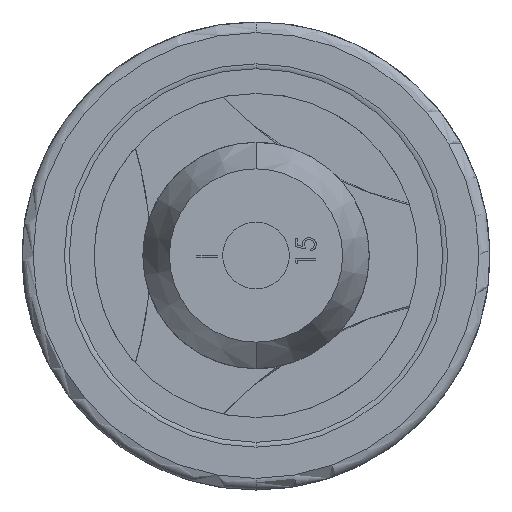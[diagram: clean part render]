
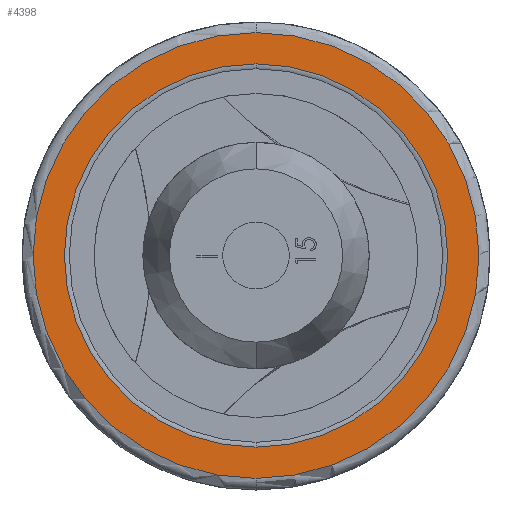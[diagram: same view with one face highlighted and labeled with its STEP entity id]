
A CAD part, left-side view. The second image highlights one B-rep face of the part: STEP entity #4398.
In plain terms, the highlighted planar face has unit normal (-1, 0, 0).
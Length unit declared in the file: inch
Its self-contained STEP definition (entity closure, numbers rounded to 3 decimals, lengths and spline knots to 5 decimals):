
#89 = AXIS2_PLACEMENT_3D ( 'NONE', #3285, #295, #6924 ) ;
#257 = DIRECTION ( 'NONE',  ( 0., 0., -1. ) ) ;
#295 = DIRECTION ( 'NONE',  ( 1., 0., 0. ) ) ;
#741 = CARTESIAN_POINT ( 'NONE',  ( -0.25687, 0.07672, -0.15806 ) ) ;
#858 = CARTESIAN_POINT ( 'NONE',  ( -0.25687, 0.07672, -0.15806 ) ) ;
#976 = CARTESIAN_POINT ( 'NONE',  ( -0.25687, 0.07672, -0.72914 ) ) ;
#1069 = EDGE_LOOP ( 'NONE', ( #7727, #2149 ) ) ;
#1245 = VERTEX_POINT ( 'NONE', #2766 ) ;
#1538 = CARTESIAN_POINT ( 'NONE',  ( -0.25687, 0.07672, -0.15806 ) ) ;
#1739 = AXIS2_PLACEMENT_3D ( 'NONE', #741, #2576, #6174 ) ;
#1782 = VERTEX_POINT ( 'NONE', #976 ) ;
#1892 = CARTESIAN_POINT ( 'NONE',  ( -0.25687, 0.07672, 0.33296 ) ) ;
#2149 = ORIENTED_EDGE ( 'NONE', *, *, #3027, .T. ) ;
#2576 = DIRECTION ( 'NONE',  ( 1., 0., 0. ) ) ;
#2654 = DIRECTION ( 'NONE',  ( -1., 0., 0. ) ) ;
#2732 = CARTESIAN_POINT ( 'NONE',  ( -0.25687, 0.07672, -0.15806 ) ) ;
#2766 = CARTESIAN_POINT ( 'NONE',  ( -0.25687, 0.07672, -0.64908 ) ) ;
#2989 = CIRCLE ( 'NONE', #3366, 0.57108 ) ;
#3021 = EDGE_CURVE ( 'NONE', #4827, #1245, #3491, .T. ) ;
#3027 = EDGE_CURVE ( 'NONE', #4466, #1782, #2989, .T. ) ;
#3243 = CARTESIAN_POINT ( 'NONE',  ( -0.25687, 0.07672, 0.41302 ) ) ;
#3285 = CARTESIAN_POINT ( 'NONE',  ( -0.25687, 0.07672, -0.15806 ) ) ;
#3366 = AXIS2_PLACEMENT_3D ( 'NONE', #1538, #5817, #257 ) ;
#3413 = FACE_OUTER_BOUND ( 'NONE', #1069, .T. ) ;
#3491 = CIRCLE ( 'NONE', #6812, 0.49102 ) ;
#3529 = CIRCLE ( 'NONE', #7237, 0.57108 ) ;
#3905 = CIRCLE ( 'NONE', #1739, 0.49102 ) ;
#4056 = DIRECTION ( 'NONE',  ( 1., 0., 0. ) ) ;
#4337 = EDGE_CURVE ( 'NONE', #1245, #4827, #3905, .T. ) ;
#4398 = ADVANCED_FACE ( 'NONE', ( #6967, #3413 ), #5770, .F. ) ;
#4466 = VERTEX_POINT ( 'NONE', #3243 ) ;
#4487 = EDGE_CURVE ( 'NONE', #1782, #4466, #3529, .T. ) ;
#4827 = VERTEX_POINT ( 'NONE', #1892 ) ;
#4997 = ORIENTED_EDGE ( 'NONE', *, *, #4337, .T. ) ;
#5175 = DIRECTION ( 'NONE',  ( 0., 0., -1. ) ) ;
#5363 = EDGE_LOOP ( 'NONE', ( #4997, #6454 ) ) ;
#5770 = PLANE ( 'NONE',  #89 ) ;
#5817 = DIRECTION ( 'NONE',  ( -1., 0., 0. ) ) ;
#6174 = DIRECTION ( 'NONE',  ( 0., 0., -1. ) ) ;
#6454 = ORIENTED_EDGE ( 'NONE', *, *, #3021, .T. ) ;
#6490 = DIRECTION ( 'NONE',  ( 0., 0., -1. ) ) ;
#6812 = AXIS2_PLACEMENT_3D ( 'NONE', #858, #4056, #6490 ) ;
#6924 = DIRECTION ( 'NONE',  ( 0., 0., -1. ) ) ;
#6967 = FACE_BOUND ( 'NONE', #5363, .T. ) ;
#7237 = AXIS2_PLACEMENT_3D ( 'NONE', #2732, #2654, #5175 ) ;
#7727 = ORIENTED_EDGE ( 'NONE', *, *, #4487, .T. ) ;
